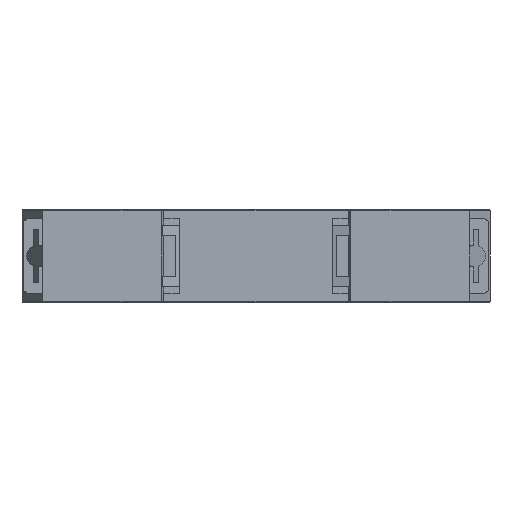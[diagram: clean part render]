
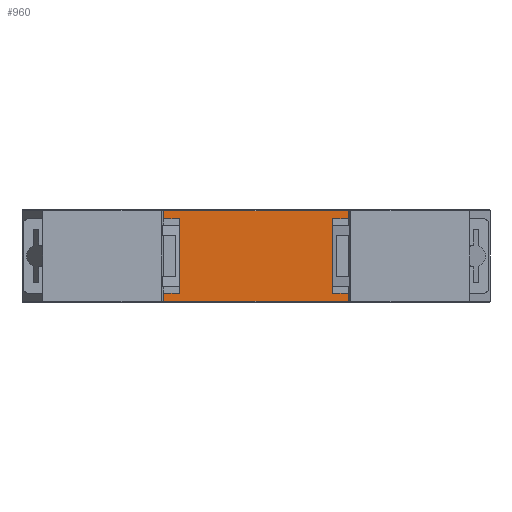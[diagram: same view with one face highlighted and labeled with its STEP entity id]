
A CAD part, front view. The second image highlights one B-rep face of the part: STEP entity #960.
In plain terms, the highlighted planar face has unit normal (0, -1, 0).
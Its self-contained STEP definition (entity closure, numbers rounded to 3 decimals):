
#315 = DIRECTION ( 'NONE',  ( -1., 0., 0. ) ) ;
#357 = CARTESIAN_POINT ( 'NONE',  ( -17.75, 0., 8.7 ) ) ;
#578 = DIRECTION ( 'NONE',  ( 0., 0., -1. ) ) ;
#737 = VECTOR ( 'NONE', #4101, 1000. ) ;
#960 = ADVANCED_FACE ( 'NONE', ( #5130 ), #3989, .F. ) ;
#1123 = EDGE_CURVE ( 'NONE', #1153, #4947, #1931, .T. ) ;
#1153 = VERTEX_POINT ( 'NONE', #5141 ) ;
#1324 = VERTEX_POINT ( 'NONE', #4919 ) ;
#1509 = LINE ( 'NONE', #4078, #5262 ) ;
#1837 = VERTEX_POINT ( 'NONE', #4525 ) ;
#1931 = LINE ( 'NONE', #3580, #4767 ) ;
#2062 = EDGE_CURVE ( 'NONE', #1837, #1324, #4323, .T. ) ;
#2220 = CARTESIAN_POINT ( 'NONE',  ( -17.75, 0., 8.9 ) ) ;
#2236 = ORIENTED_EDGE ( 'NONE', *, *, #2822, .F. ) ;
#2447 = ORIENTED_EDGE ( 'NONE', *, *, #3687, .T. ) ;
#2685 = DIRECTION ( 'NONE',  ( 0., 1., 0. ) ) ;
#2700 = AXIS2_PLACEMENT_3D ( 'NONE', #2220, #2685, #4927 ) ;
#2822 = EDGE_CURVE ( 'NONE', #1153, #1324, #1509, .T. ) ;
#3303 = DIRECTION ( 'NONE',  ( 1., 0., 0. ) ) ;
#3580 = CARTESIAN_POINT ( 'NONE',  ( -17.75, 0., 8.7 ) ) ;
#3687 = EDGE_CURVE ( 'NONE', #4947, #1837, #4591, .T. ) ;
#3876 = EDGE_LOOP ( 'NONE', ( #4317, #2447, #5690, #2236 ) ) ;
#3989 = PLANE ( 'NONE',  #2700 ) ;
#4040 = VECTOR ( 'NONE', #3303, 1000. ) ;
#4078 = CARTESIAN_POINT ( 'NONE',  ( 17.75, 0., 8.9 ) ) ;
#4101 = DIRECTION ( 'NONE',  ( 0., 0., -1. ) ) ;
#4317 = ORIENTED_EDGE ( 'NONE', *, *, #1123, .T. ) ;
#4323 = LINE ( 'NONE', #5528, #4040 ) ;
#4503 = CARTESIAN_POINT ( 'NONE',  ( -17.75, 0., 7.15 ) ) ;
#4525 = CARTESIAN_POINT ( 'NONE',  ( -17.75, 0., -8.7 ) ) ;
#4591 = LINE ( 'NONE', #4503, #737 ) ;
#4767 = VECTOR ( 'NONE', #315, 1000. ) ;
#4919 = CARTESIAN_POINT ( 'NONE',  ( 17.75, 0., -8.7 ) ) ;
#4927 = DIRECTION ( 'NONE',  ( 1., 0., 0. ) ) ;
#4947 = VERTEX_POINT ( 'NONE', #357 ) ;
#5130 = FACE_OUTER_BOUND ( 'NONE', #3876, .T. ) ;
#5141 = CARTESIAN_POINT ( 'NONE',  ( 17.75, 0., 8.7 ) ) ;
#5262 = VECTOR ( 'NONE', #578, 1000. ) ;
#5528 = CARTESIAN_POINT ( 'NONE',  ( 17.75, 0., -8.7 ) ) ;
#5690 = ORIENTED_EDGE ( 'NONE', *, *, #2062, .T. ) ;
